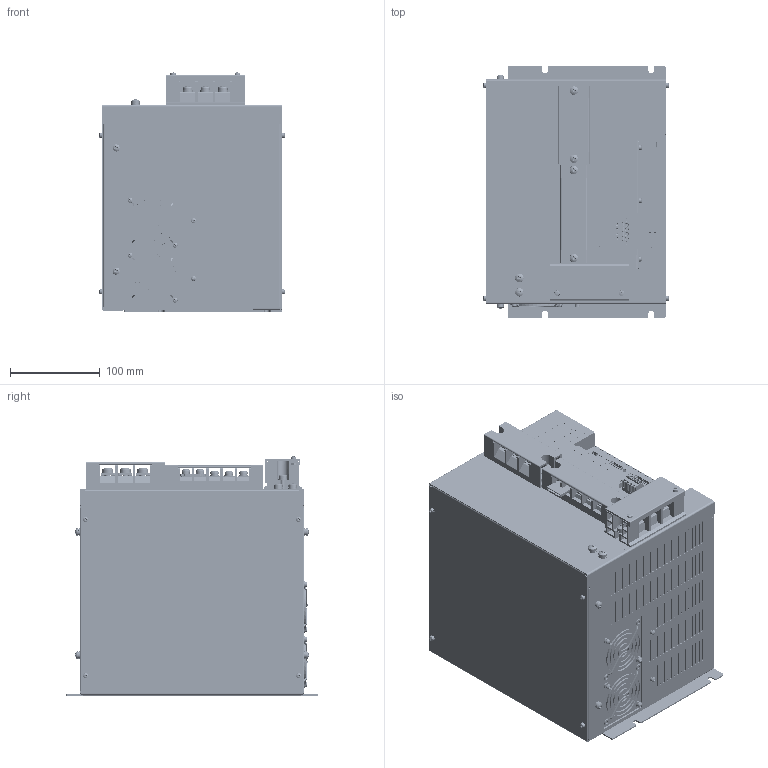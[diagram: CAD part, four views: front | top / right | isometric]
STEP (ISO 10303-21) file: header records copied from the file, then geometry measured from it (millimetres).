
FILE_DESCRIPTION (( 'STEP AP203' ), '1' );
FILE_NAME ('NCR-HA2_153#SE-94770.STEP', '2021-07-13T06:15:46', ( '' ), ( '' ), 'SwSTEP 2.0', 'SolidWorks 2018', '' );
FILE_SCHEMA (( 'CONFIG_CONTROL_DESIGN' ));
Products named in the file (1): NCR-HA2_153#SE-94770
Bounding box: 207.11 x 280 x 265.98 mm (x, y, z)
Volume: 11530914.3 mm3; surface area: 468409.5 mm2
Topology: 5 solids, 94 shells, 11820 faces, 31000 edges, 20081 vertices
Faces by surface type: plane 7021, cylinder 2211, bspline 1561, cone 673, torus 238, sphere 116
Entity records: 417592 total; most frequent: CARTESIAN_POINT 136139, ORIENTED_EDGE 61824, DIRECTION 52672, EDGE_CURVE 30912, VERTEX_POINT 20081, LINE 18832, VECTOR 18832, AXIS2_PLACEMENT_3D 16920
